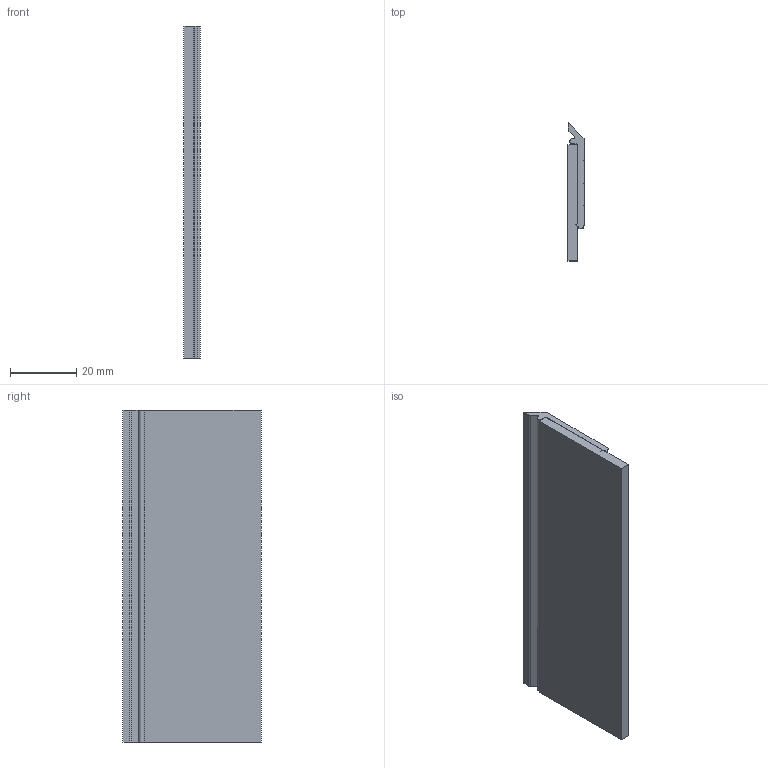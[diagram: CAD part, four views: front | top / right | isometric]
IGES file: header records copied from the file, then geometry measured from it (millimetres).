
Global section: file name: No Iges File Name specified; native system: Autodesk Inventor 2012; preprocessor: AutoDesk Inventor Iges Exporter R2012; author: anna.b; date: 20130822.111542; units: millimetre
Bounding box: 4.83 x 41.59 x 100 mm (x, y, z)
Volume: 16385.1 mm3; surface area: 15235 mm2
Topology: 2 solids, 2 shells, 96 faces, 276 edges, 184 vertices
Faces by surface type: plane 91, cylinder 3, revolution 2
